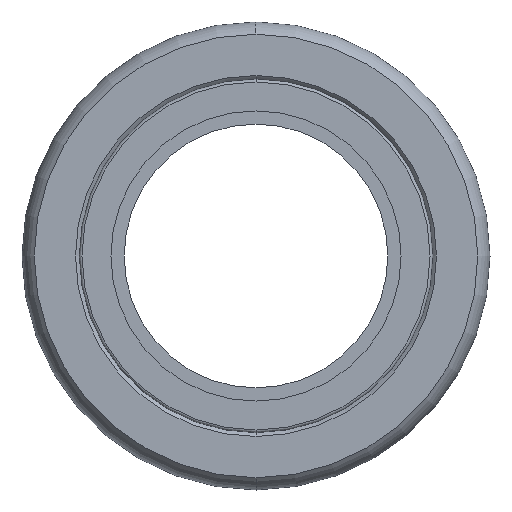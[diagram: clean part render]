
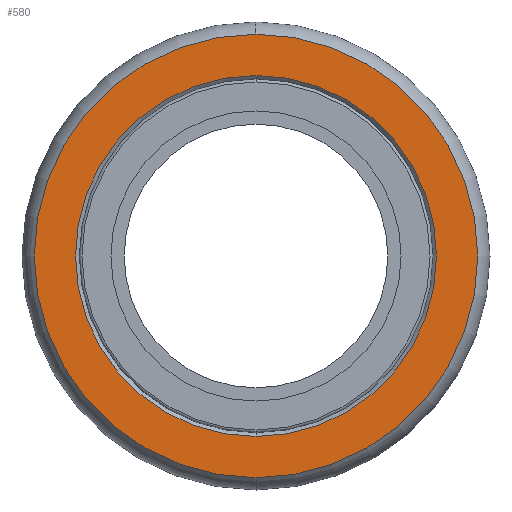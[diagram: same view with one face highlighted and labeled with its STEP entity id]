
A CAD part, front view. The second image highlights one B-rep face of the part: STEP entity #580.
In plain terms, the highlighted planar face has unit normal (0, -1, 0).
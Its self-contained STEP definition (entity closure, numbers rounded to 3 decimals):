
#141=CARTESIAN_POINT('',(0.,2.05,0.));
#142=DIRECTION('',(0.,-1.,0.));
#143=DIRECTION('',(0.,0.,1.));
#144=AXIS2_PLACEMENT_3D('',#141,#142,#143);
#156=CARTESIAN_POINT('',(0.,2.05,0.));
#157=DIRECTION('',(0.,-1.,0.));
#158=DIRECTION('',(0.,0.,-1.));
#159=AXIS2_PLACEMENT_3D('',#156,#157,#158);
#171=CARTESIAN_POINT('',(0.,2.05,0.));
#172=DIRECTION('',(0.,-1.,0.));
#173=DIRECTION('',(0.,0.,1.));
#174=AXIS2_PLACEMENT_3D('',#171,#172,#173);
#257=CARTESIAN_POINT('',(0.,2.05,0.));
#258=DIRECTION('',(0.,-1.,0.));
#259=DIRECTION('',(0.,0.,-1.));
#260=AXIS2_PLACEMENT_3D('',#257,#258,#259);
#307=CARTESIAN_POINT('',(0.,2.05,16.814));
#308=CARTESIAN_POINT('',(0.,2.05,-16.814));
#309=VERTEX_POINT('',#307);
#310=VERTEX_POINT('',#308);
#311=CARTESIAN_POINT('',(0.,2.05,13.686));
#312=CARTESIAN_POINT('',(0.,2.05,-13.686));
#313=VERTEX_POINT('',#311);
#314=VERTEX_POINT('',#312);
#565=CARTESIAN_POINT('',(0.,2.05,0.));
#566=DIRECTION('',(0.,1.,0.));
#567=DIRECTION('',(1.,0.,0.));
#568=AXIS2_PLACEMENT_3D('',#565,#566,#567);
#569=PLANE('',#568);
#570=ORIENTED_EDGE('',*,*,#530,.F.);
#571=ORIENTED_EDGE('',*,*,#551,.F.);
#572=EDGE_LOOP('',(#570,#571));
#573=FACE_OUTER_BOUND('',#572,.F.);
#575=ORIENTED_EDGE('',*,*,#574,.T.);
#577=ORIENTED_EDGE('',*,*,#576,.T.);
#578=EDGE_LOOP('',(#575,#577));
#579=FACE_BOUND('',#578,.F.);
#145=CIRCLE('',#144,16.814);
#160=CIRCLE('',#159,16.814);
#175=CIRCLE('',#174,13.686);
#261=CIRCLE('',#260,13.686);
#530=EDGE_CURVE('',#309,#310,#145,.T.);
#551=EDGE_CURVE('',#310,#309,#160,.T.);
#574=EDGE_CURVE('',#313,#314,#175,.T.);
#576=EDGE_CURVE('',#314,#313,#261,.T.);
#580=ADVANCED_FACE('',(#573,#579),#569,.F.);
